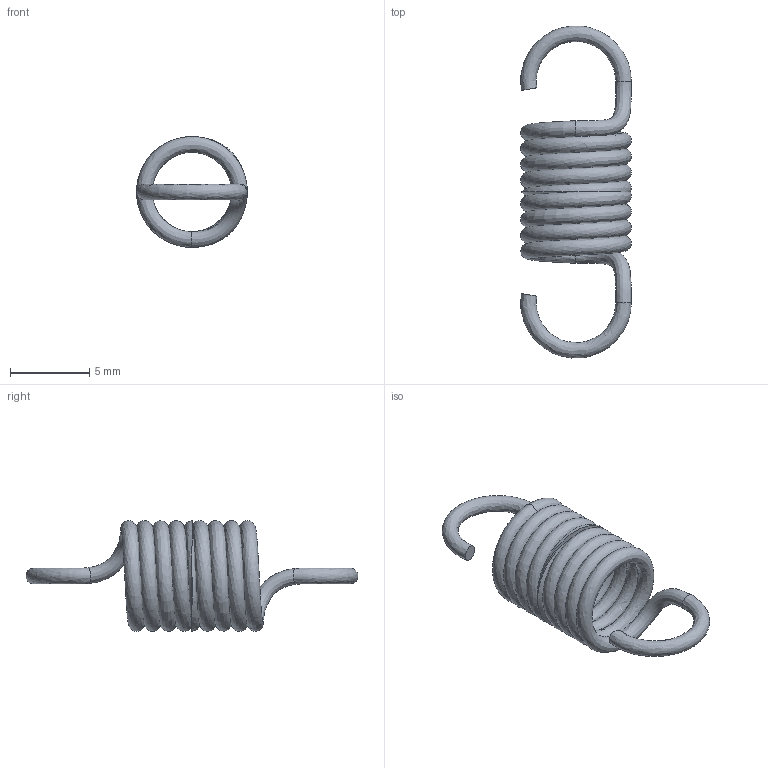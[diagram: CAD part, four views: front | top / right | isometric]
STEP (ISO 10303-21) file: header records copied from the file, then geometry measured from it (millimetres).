
FILE_DESCRIPTION(/* description */ ('45.3 | 4,71 | 0'),/* implementation_level */ '2;1');
FILE_NAME(/* name */ 'T10870.step',/* time_stamp */ '2026-10-05T09:51:10+02:00',/* author */ ('impex-ready.pl'),/* organization */ ('T10870'),/* preprocessor_version */ 'ST-DEVELOPER v20.1',/* originating_system */ 'Autodesk Inventor 2026',/* authorisation */ 'stal sprezynowa');
FILE_SCHEMA (('AUTOMOTIVE_DESIGN { 1 0 10303 214 3 1 1 }'));
Length unit declared in the file: millimetre
Products named in the file (1): T10870
Bounding box: 7 x 20.97 x 7 mm (x, y, z)
Volume: 144.1 mm3; surface area: 582.3 mm2
Topology: 1 solids, 1 shells, 10 faces, 32 edges, 20 vertices
Faces by surface type: bspline 6, plane 4
Entity records: 2722 total; most frequent: CARTESIAN_POINT 2434, ORIENTED_EDGE 64, DIRECTION 34, EDGE_CURVE 32, B_SPLINE_CURVE_WITH_KNOTS 20, VERTEX_POINT 20, AXIS2_PLACEMENT_3D 17, CIRCLE 12
